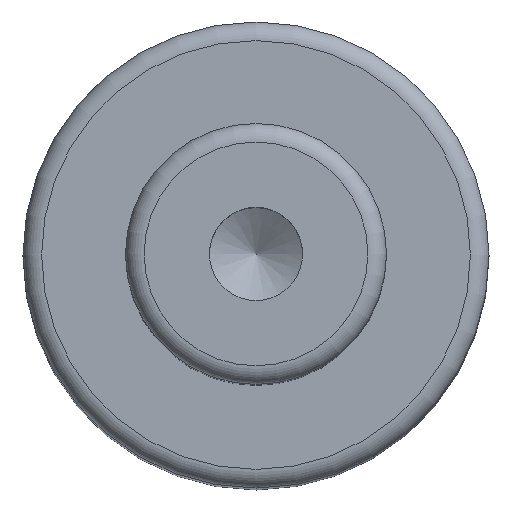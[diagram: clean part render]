
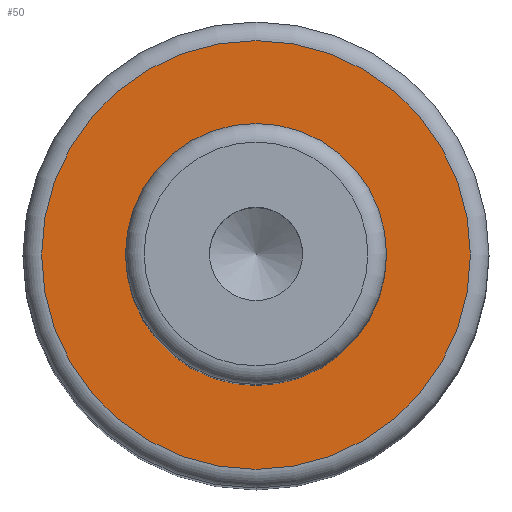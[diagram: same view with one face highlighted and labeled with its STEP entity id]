
A CAD part, top view. The second image highlights one B-rep face of the part: STEP entity #50.
In plain terms, the highlighted planar face has unit normal (0, 0, 1).
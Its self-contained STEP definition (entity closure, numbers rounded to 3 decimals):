
#40=PLANE('',#179);
#50=ADVANCED_FACE('',(#72,#73),#40,.F.);
#72=FACE_BOUND('',#96,.T.);
#73=FACE_BOUND('',#97,.T.);
#96=EDGE_LOOP('',(#118));
#97=EDGE_LOOP('',(#119));
#118=ORIENTED_EDGE('',*,*,#149,.F.);
#119=ORIENTED_EDGE('',*,*,#148,.T.);
#135=VERTEX_POINT('',#256);
#136=VERTEX_POINT('',#259);
#148=EDGE_CURVE('',#135,#135,#159,.T.);
#149=EDGE_CURVE('',#136,#136,#160,.T.);
#159=CIRCLE('',#176,7.);
#160=CIRCLE('',#178,11.5);
#176=AXIS2_PLACEMENT_3D('',#255,#213,#214);
#178=AXIS2_PLACEMENT_3D('',#258,#217,#218);
#179=AXIS2_PLACEMENT_3D('',#260,#219,#220);
#213=DIRECTION('',(0.,0.,-1.));
#214=DIRECTION('',(-1.,0.,0.));
#217=DIRECTION('',(0.,0.,-1.));
#218=DIRECTION('',(-1.,0.,0.));
#219=DIRECTION('',(0.,0.,-1.));
#220=DIRECTION('',(-1.,0.,0.));
#255=CARTESIAN_POINT('',(0.,0.,61.));
#256=CARTESIAN_POINT('',(-7.,0.,61.));
#258=CARTESIAN_POINT('',(0.,0.,61.));
#259=CARTESIAN_POINT('',(-11.5,0.,61.));
#260=CARTESIAN_POINT('',(7.,0.,61.));
